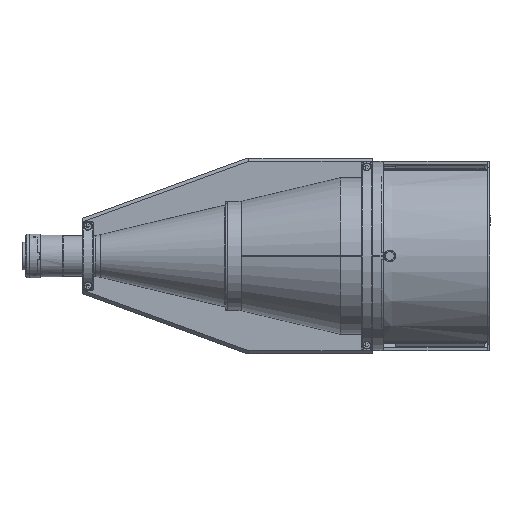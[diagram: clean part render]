
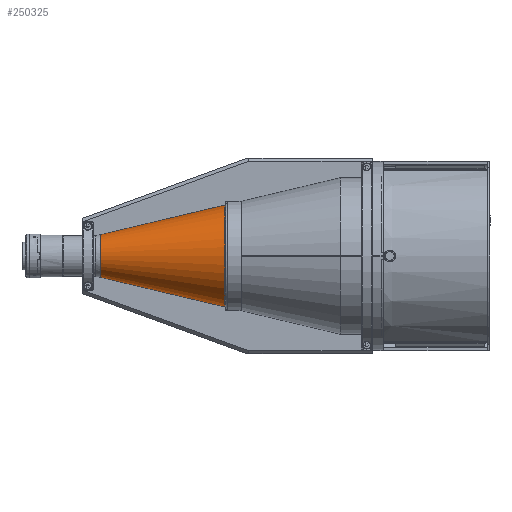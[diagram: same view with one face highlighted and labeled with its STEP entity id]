
A CAD part, left-side view. The second image highlights one B-rep face of the part: STEP entity #250325.
In plain terms, the highlighted face is a revolution surface.
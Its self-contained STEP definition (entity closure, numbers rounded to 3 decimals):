
#250325 = ADVANCED_FACE('',(#250326),#250340,.T.);
#250326 = FACE_BOUND('',#250327,.T.);
#250327 = EDGE_LOOP('',(#250328,#250353,#250369,#250384));
#250328 = ORIENTED_EDGE('',*,*,#250329,.F.);
#250329 = EDGE_CURVE('',#250330,#250332,#250334,.T.);
#250330 = VERTEX_POINT('',#250331);
#250331 = CARTESIAN_POINT('',(0.,198.876,46.5)
  );
#250332 = VERTEX_POINT('',#250333);
#250333 = CARTESIAN_POINT('',(0.,312.825,
    19.441));
#250334 = SURFACE_CURVE('',#250335,(#250339),.PCURVE_S1.);
#250335 = LINE('',#250336,#250337);
#250336 = CARTESIAN_POINT('',(0.,198.876,46.5));
#250337 = VECTOR('',#250338,1.);
#250338 = DIRECTION('',(0.,0.973,-0.231));
#250339 = PCURVE('',#250340,#250348);
#250340 = SURFACE_OF_REVOLUTION('',#250341,#250345);
#250341 = LINE('',#250342,#250343);
#250342 = CARTESIAN_POINT('',(0.,312.825,
    19.441));
#250343 = VECTOR('',#250344,1.);
#250344 = DIRECTION('',(0.,-0.973,0.231
    ));
#250345 = AXIS1_PLACEMENT('',#250346,#250347);
#250346 = CARTESIAN_POINT('',(0.,1312.825,0.));
#250347 = DIRECTION('',(0.,1.,0.));
#250348 = DEFINITIONAL_REPRESENTATION('',(#250349),#250352);
#250349 = B_SPLINE_CURVE_WITH_KNOTS('',1,(#250350,#250351),
  .UNSPECIFIED.,.F.,.F.,(2,2),(0.,117.118),
  .PIECEWISE_BEZIER_KNOTS.);
#250350 = CARTESIAN_POINT('',(6.283,117.118));
#250351 = CARTESIAN_POINT('',(6.283,0.));
#250352 = ( GEOMETRIC_REPRESENTATION_CONTEXT(2) 
PARAMETRIC_REPRESENTATION_CONTEXT() REPRESENTATION_CONTEXT('',''
  ) );
#250353 = ORIENTED_EDGE('',*,*,#250354,.F.);
#250354 = EDGE_CURVE('',#250355,#250330,#250357,.T.);
#250355 = VERTEX_POINT('',#250356);
#250356 = CARTESIAN_POINT('',(0.,198.876,-46.5)
  );
#250357 = SURFACE_CURVE('',#250358,(#250363),.PCURVE_S1.);
#250358 = CIRCLE('',#250359,46.5);
#250359 = AXIS2_PLACEMENT_3D('',#250360,#250361,#250362);
#250360 = CARTESIAN_POINT('',(0.,198.876,
    0.));
#250361 = DIRECTION('',(0.,1.,0.));
#250362 = DIRECTION('',(0.,0.,-1.));
#250363 = PCURVE('',#250340,#250364);
#250364 = DEFINITIONAL_REPRESENTATION('',(#250365),#250368);
#250365 = B_SPLINE_CURVE_WITH_KNOTS('',1,(#250366,#250367),
  .UNSPECIFIED.,.F.,.F.,(2,2),(0.,3.142),
  .PIECEWISE_BEZIER_KNOTS.);
#250366 = CARTESIAN_POINT('',(3.142,117.118));
#250367 = CARTESIAN_POINT('',(6.283,117.118));
#250368 = ( GEOMETRIC_REPRESENTATION_CONTEXT(2) 
PARAMETRIC_REPRESENTATION_CONTEXT() REPRESENTATION_CONTEXT('',''
  ) );
#250369 = ORIENTED_EDGE('',*,*,#250370,.F.);
#250370 = EDGE_CURVE('',#250371,#250355,#250373,.T.);
#250371 = VERTEX_POINT('',#250372);
#250372 = CARTESIAN_POINT('',(0.,312.825,
    -19.441));
#250373 = SURFACE_CURVE('',#250374,(#250378),.PCURVE_S1.);
#250374 = LINE('',#250375,#250376);
#250375 = CARTESIAN_POINT('',(0.,312.825,-19.441));
#250376 = VECTOR('',#250377,1.);
#250377 = DIRECTION('',(0.,-0.973,-0.231));
#250378 = PCURVE('',#250340,#250379);
#250379 = DEFINITIONAL_REPRESENTATION('',(#250380),#250383);
#250380 = B_SPLINE_CURVE_WITH_KNOTS('',1,(#250381,#250382),
  .UNSPECIFIED.,.F.,.F.,(2,2),(0.,117.118),
  .PIECEWISE_BEZIER_KNOTS.);
#250381 = CARTESIAN_POINT('',(3.142,0.));
#250382 = CARTESIAN_POINT('',(3.142,117.118));
#250383 = ( GEOMETRIC_REPRESENTATION_CONTEXT(2) 
PARAMETRIC_REPRESENTATION_CONTEXT() REPRESENTATION_CONTEXT('',''
  ) );
#250384 = ORIENTED_EDGE('',*,*,#250385,.F.);
#250385 = EDGE_CURVE('',#250332,#250371,#250386,.T.);
#250386 = SURFACE_CURVE('',#250387,(#250392),.PCURVE_S1.);
#250387 = CIRCLE('',#250388,19.441);
#250388 = AXIS2_PLACEMENT_3D('',#250389,#250390,#250391);
#250389 = CARTESIAN_POINT('',(0.,312.825,
    0.));
#250390 = DIRECTION('',(0.,-1.,0.));
#250391 = DIRECTION('',(0.,0.,1.));
#250392 = PCURVE('',#250340,#250393);
#250393 = DEFINITIONAL_REPRESENTATION('',(#250394),#250397);
#250394 = B_SPLINE_CURVE_WITH_KNOTS('',1,(#250395,#250396),
  .UNSPECIFIED.,.F.,.F.,(2,2),(0.,3.142),
  .PIECEWISE_BEZIER_KNOTS.);
#250395 = CARTESIAN_POINT('',(6.283,0.));
#250396 = CARTESIAN_POINT('',(3.142,0.));
#250397 = ( GEOMETRIC_REPRESENTATION_CONTEXT(2) 
PARAMETRIC_REPRESENTATION_CONTEXT() REPRESENTATION_CONTEXT('',''
  ) );
